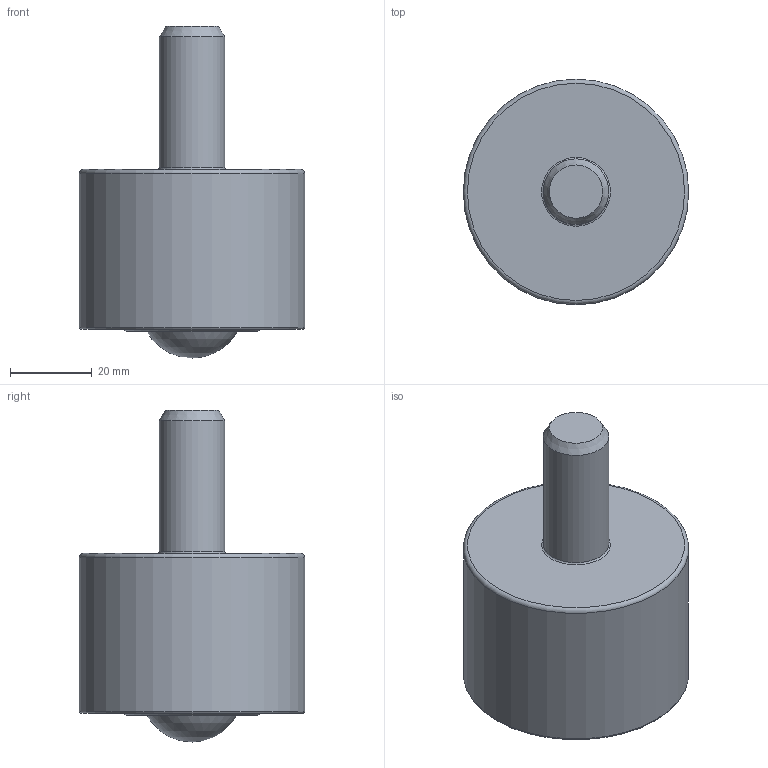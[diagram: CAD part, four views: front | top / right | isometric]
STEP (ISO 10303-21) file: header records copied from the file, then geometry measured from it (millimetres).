
FILE_DESCRIPTION(/* description */ (''),/* implementation_level */ '2;1');
FILE_NAME(/* name */ 'Z:\80-CAD共有ファイル\製品3D\X2\30C730FC30BF\X0\\12-IK-N\IK-25N.stp',/* time_stamp */ '2015-01-07T09:37:30+09:00',/* author */ ('yamaki'),/* organization */ (''),/* preprocessor_version */ 'ST-DEVELOPER v15.6',/* originating_system */ 'Autodesk Inventor 2015',/* authorisation */ '');
FILE_SCHEMA (('AUTOMOTIVE_DESIGN { 1 0 10303 214 3 1 1 }'));
Length unit declared in the file: millimetre
Products named in the file (1): 1225AA
Bounding box: 55 x 55 x 81 mm (x, y, z)
Volume: 97479.3 mm3; surface area: 15391.9 mm2
Topology: 1 solids, 1 shells, 41 faces, 83 edges, 53 vertices
Faces by surface type: plane 17, cylinder 15, torus 6, cone 2, sphere 1
Full cylindrical faces by diameter (mm): 2.5 x2, 16 x1, 23.5 x1, 33.5 x1, 47.1 x1, 55 x1
Entity records: 1054 total; most frequent: DIRECTION 188, CARTESIAN_POINT 158, ORIENTED_EDGE 130, AXIS2_PLACEMENT_3D 81, EDGE_LOOP 66, EDGE_CURVE 65, VERTEX_POINT 51, STYLED_ITEM 42
